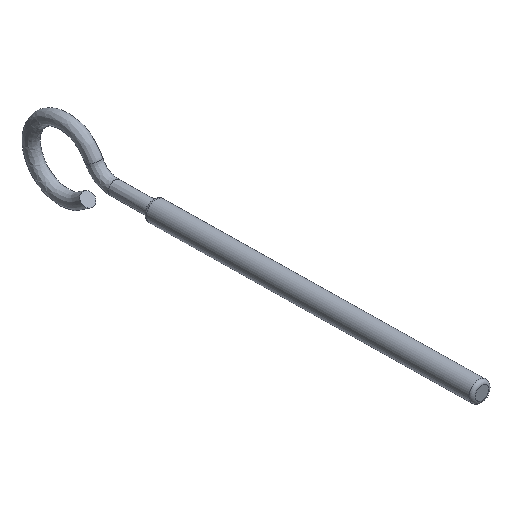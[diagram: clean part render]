
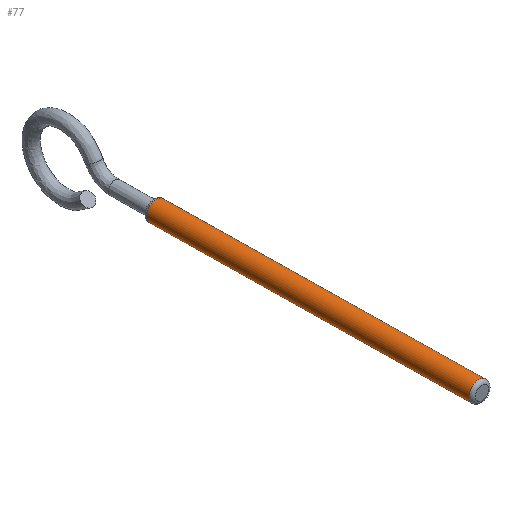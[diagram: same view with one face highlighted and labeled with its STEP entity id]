
A CAD part, isometric view. The second image highlights one B-rep face of the part: STEP entity #77.
In plain terms, the highlighted cylindrical face has radius 3 mm (diameter 6 mm), a full revolution.
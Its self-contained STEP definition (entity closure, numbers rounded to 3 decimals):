
#33=CYLINDRICAL_SURFACE('',#151,3.);
#64=FACE_BOUND('',#98,.T.);
#65=FACE_BOUND('',#99,.T.);
#77=ADVANCED_FACE('',(#64,#65),#33,.T.);
#98=EDGE_LOOP('',(#114));
#99=EDGE_LOOP('',(#115));
#114=ORIENTED_EDGE('',*,*,#134,.T.);
#115=ORIENTED_EDGE('',*,*,#135,.T.);
#126=VERTEX_POINT('',#588);
#127=VERTEX_POINT('',#590);
#134=EDGE_CURVE('',#126,#126,#140,.T.);
#135=EDGE_CURVE('',#127,#127,#141,.T.);
#140=CIRCLE('',#149,3.);
#141=CIRCLE('',#150,3.);
#149=AXIS2_PLACEMENT_3D('',#587,#168,#169);
#150=AXIS2_PLACEMENT_3D('',#589,#170,#171);
#151=AXIS2_PLACEMENT_3D('',#591,#172,#173);
#168=DIRECTION('',(0.001,-1.,0.015));
#169=DIRECTION('',(-1.,-0.001,-0.001));
#170=DIRECTION('',(-0.001,1.,-0.015));
#171=DIRECTION('',(1.,0.001,0.001));
#172=DIRECTION('',(0.001,-1.,0.015));
#173=DIRECTION('',(-1.,-0.001,-0.001));
#587=CARTESIAN_POINT('',(-245.045,-122.135,116.101));
#588=CARTESIAN_POINT('',(-248.045,-122.137,116.097));
#589=CARTESIAN_POINT('',(-244.981,-220.124,117.584));
#590=CARTESIAN_POINT('',(-241.981,-220.122,117.588));
#591=CARTESIAN_POINT('',(-245.045,-121.135,116.086));
